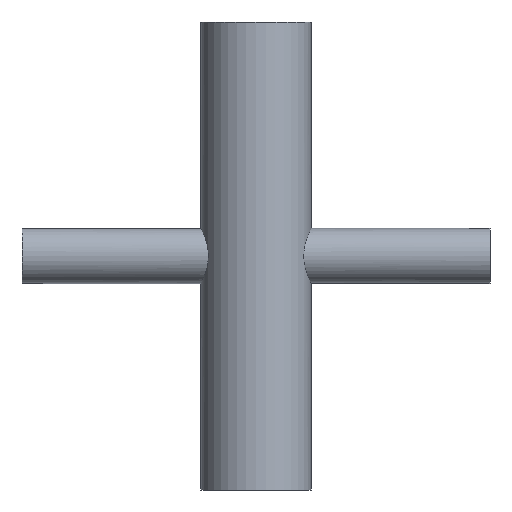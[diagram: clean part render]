
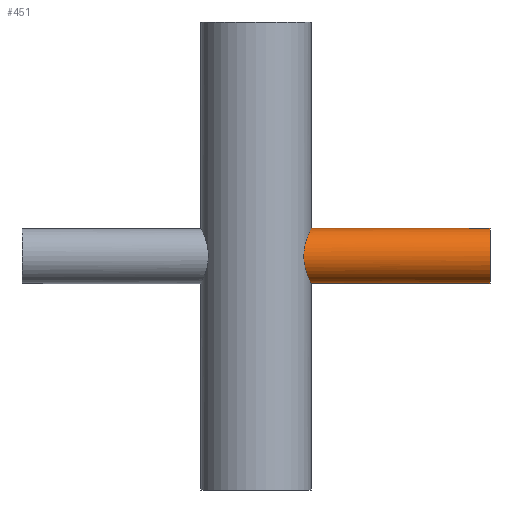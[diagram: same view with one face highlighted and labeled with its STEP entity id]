
A CAD part, front view. The second image highlights one B-rep face of the part: STEP entity #451.
In plain terms, the highlighted cylindrical face has radius 6.35 mm (diameter 12.7 mm), a partial arc.
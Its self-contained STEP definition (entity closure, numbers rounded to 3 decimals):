
#3 = B_SPLINE_CURVE_WITH_KNOTS ( 'NONE', 3,
 ( #91, #491, #810, #424, #147, #482, #17, #546, #80, #88, #623, #684, #617, #353, #276, #348, #800, #736, #620, #216, #697, #501, #361, #156, #687, #287, #430, #412, #96, #815, #36, #560, #499, #689, #734, #152, #682, #141, #477, #77, #12, #805, #548, #22, #486, #83, #407, #165 ),
 .UNSPECIFIED., .F., .F.,
 ( 4, 2, 2, 2, 2, 2, 2, 2, 2, 2, 2, 2, 2, 2, 2, 2, 2, 2, 2, 2, 2, 2, 2, 4 ),
 ( 0.02, 0.021, 0.023, 0.024, 0.025, 0.025, 0.026, 0.026, 0.028, 0.028, 0.029, 0.03, 0.031, 0.032, 0.032, 0.033, 0.034, 0.035, 0.035, 0.037, 0.038, 0.038, 0.039, 0.04 ),
 .UNSPECIFIED. ) ;
#12 = CARTESIAN_POINT ( 'NONE',  ( 12.384, -2.843, 5.693 ) ) ;
#17 = CARTESIAN_POINT ( 'NONE',  ( 12.295, -3.203, -5.498 ) ) ;
#22 = CARTESIAN_POINT ( 'NONE',  ( 12.59, -1.678, 6.128 ) ) ;
#33 = VERTEX_POINT ( 'NONE', #322 ) ;
#36 = CARTESIAN_POINT ( 'NONE',  ( 11.226, -5.939, 2.256 ) ) ;
#40 = DIRECTION ( 'NONE',  ( -1., 0., 0. ) ) ;
#51 = CARTESIAN_POINT ( 'NONE',  ( 53.975, 0., -6.35 ) ) ;
#66 = ORIENTED_EDGE ( 'NONE', *, *, #825, .T. ) ;
#77 = CARTESIAN_POINT ( 'NONE',  ( 12.294, -3.207, 5.496 ) ) ;
#80 = CARTESIAN_POINT ( 'NONE',  ( 12.093, -3.883, -5.029 ) ) ;
#82 = DIRECTION ( 'NONE',  ( 1., 0., 0. ) ) ;
#83 = CARTESIAN_POINT ( 'NONE',  ( 12.678, -0.849, 6.307 ) ) ;
#88 = CARTESIAN_POINT ( 'NONE',  ( 11.987, -4.199, -4.768 ) ) ;
#90 = ORIENTED_EDGE ( 'NONE', *, *, #595, .F. ) ;
#91 = CARTESIAN_POINT ( 'NONE',  ( 12.7, 0., -6.35 ) ) ;
#96 = CARTESIAN_POINT ( 'NONE',  ( 11.121, -6.133, 1.658 ) ) ;
#99 = ORIENTED_EDGE ( 'NONE', *, *, #420, .F. ) ;
#101 = DIRECTION ( 'NONE',  ( 0., 0., -1. ) ) ;
#129 = EDGE_LOOP ( 'NONE', ( #90, #99, #66, #733 ) ) ;
#141 = CARTESIAN_POINT ( 'NONE',  ( 11.986, -4.208, 4.773 ) ) ;
#147 = CARTESIAN_POINT ( 'NONE',  ( 12.536, -2.074, -6.016 ) ) ;
#152 = CARTESIAN_POINT ( 'NONE',  ( 11.768, -4.777, 4.189 ) ) ;
#156 = CARTESIAN_POINT ( 'NONE',  ( 10.998, -6.35, 0.2 ) ) ;
#165 = CARTESIAN_POINT ( 'NONE',  ( 12.7, 0., 6.35 ) ) ;
#170 = DIRECTION ( 'NONE',  ( 0., 0., -1. ) ) ;
#184 = CARTESIAN_POINT ( 'NONE',  ( 12.7, 0., -6.35 ) ) ;
#195 = AXIS2_PLACEMENT_3D ( 'NONE', #603, #40, #170 ) ;
#216 = CARTESIAN_POINT ( 'NONE',  ( 11.123, -6.129, -1.672 ) ) ;
#217 = CIRCLE ( 'NONE', #195, 6.35 ) ;
#222 = VERTEX_POINT ( 'NONE', #184 ) ;
#225 = LINE ( 'NONE', #419, #748 ) ;
#229 = DIRECTION ( 'NONE',  ( 1., 0., 0. ) ) ;
#276 = CARTESIAN_POINT ( 'NONE',  ( 11.606, -5.157, -3.71 ) ) ;
#287 = CARTESIAN_POINT ( 'NONE',  ( 11.028, -6.298, 0.836 ) ) ;
#292 = LINE ( 'NONE', #694, #631 ) ;
#322 = CARTESIAN_POINT ( 'NONE',  ( 12.7, 0., 6.35 ) ) ;
#326 = EDGE_CURVE ( 'NONE', #342, #586, #217, .T. ) ;
#342 = VERTEX_POINT ( 'NONE', #51 ) ;
#348 = CARTESIAN_POINT ( 'NONE',  ( 11.449, -5.501, -3.198 ) ) ;
#353 = CARTESIAN_POINT ( 'NONE',  ( 11.661, -5.034, -3.876 ) ) ;
#361 = CARTESIAN_POINT ( 'NONE',  ( 10.999, -6.349, -0.434 ) ) ;
#382 = CARTESIAN_POINT ( 'NONE',  ( 53.975, 0., 6.35 ) ) ;
#407 = CARTESIAN_POINT ( 'NONE',  ( 12.7, -0.427, 6.35 ) ) ;
#411 = DIRECTION ( 'NONE',  ( 1., 0., 0. ) ) ;
#412 = CARTESIAN_POINT ( 'NONE',  ( 11.093, -6.185, 1.455 ) ) ;
#419 = CARTESIAN_POINT ( 'NONE',  ( -53.975, 0., -6.35 ) ) ;
#420 = EDGE_CURVE ( 'NONE', #222, #33, #3, .T. ) ;
#424 = CARTESIAN_POINT ( 'NONE',  ( 12.597, -1.667, -6.141 ) ) ;
#430 = CARTESIAN_POINT ( 'NONE',  ( 11.046, -6.267, 1.044 ) ) ;
#451 = ADVANCED_FACE ( 'NONE', ( #529 ), #672, .T. ) ;
#477 = CARTESIAN_POINT ( 'NONE',  ( 12.094, -3.894, 5.033 ) ) ;
#482 = CARTESIAN_POINT ( 'NONE',  ( 12.384, -2.841, -5.694 ) ) ;
#486 = CARTESIAN_POINT ( 'NONE',  ( 12.616, -1.472, 6.181 ) ) ;
#491 = CARTESIAN_POINT ( 'NONE',  ( 12.7, -0.427, -6.35 ) ) ;
#499 = CARTESIAN_POINT ( 'NONE',  ( 11.448, -5.503, 3.194 ) ) ;
#501 = CARTESIAN_POINT ( 'NONE',  ( 11.024, -6.307, -0.85 ) ) ;
#529 = FACE_OUTER_BOUND ( 'NONE', #129, .T. ) ;
#546 = CARTESIAN_POINT ( 'NONE',  ( 12.145, -3.717, -5.153 ) ) ;
#548 = CARTESIAN_POINT ( 'NONE',  ( 12.531, -2.077, 6.004 ) ) ;
#560 = CARTESIAN_POINT ( 'NONE',  ( 11.351, -5.698, 2.833 ) ) ;
#586 = VERTEX_POINT ( 'NONE', #382 ) ;
#595 = EDGE_CURVE ( 'NONE', #33, #586, #292, .T. ) ;
#603 = CARTESIAN_POINT ( 'NONE',  ( 53.975, 0., 0. ) ) ;
#604 = AXIS2_PLACEMENT_3D ( 'NONE', #752, #229, #101 ) ;
#617 = CARTESIAN_POINT ( 'NONE',  ( 11.769, -4.774, -4.192 ) ) ;
#620 = CARTESIAN_POINT ( 'NONE',  ( 11.19, -6.006, -2.073 ) ) ;
#623 = CARTESIAN_POINT ( 'NONE',  ( 11.933, -4.35, -4.631 ) ) ;
#631 = VECTOR ( 'NONE', #82, 1000. ) ;
#672 = CYLINDRICAL_SURFACE ( 'NONE', #604, 6.35 ) ;
#682 = CARTESIAN_POINT ( 'NONE',  ( 11.823, -4.64, 4.34 ) ) ;
#684 = CARTESIAN_POINT ( 'NONE',  ( 11.824, -4.637, -4.343 ) ) ;
#687 = CARTESIAN_POINT ( 'NONE',  ( 11.004, -6.34, 0.414 ) ) ;
#689 = CARTESIAN_POINT ( 'NONE',  ( 11.605, -5.161, 3.706 ) ) ;
#694 = CARTESIAN_POINT ( 'NONE',  ( -53.975, 0., 6.35 ) ) ;
#697 = CARTESIAN_POINT ( 'NONE',  ( 11.094, -6.182, -1.467 ) ) ;
#733 = ORIENTED_EDGE ( 'NONE', *, *, #326, .T. ) ;
#734 = CARTESIAN_POINT ( 'NONE',  ( 11.659, -5.037, 3.872 ) ) ;
#736 = CARTESIAN_POINT ( 'NONE',  ( 11.228, -5.935, -2.268 ) ) ;
#748 = VECTOR ( 'NONE', #411, 1000. ) ;
#752 = CARTESIAN_POINT ( 'NONE',  ( -53.975, 0., 0. ) ) ;
#800 = CARTESIAN_POINT ( 'NONE',  ( 11.353, -5.695, -2.838 ) ) ;
#805 = CARTESIAN_POINT ( 'NONE',  ( 12.497, -2.272, 5.933 ) ) ;
#810 = CARTESIAN_POINT ( 'NONE',  ( 12.679, -0.846, -6.307 ) ) ;
#815 = CARTESIAN_POINT ( 'NONE',  ( 11.188, -6.011, 2.058 ) ) ;
#825 = EDGE_CURVE ( 'NONE', #222, #342, #225, .T. ) ;
